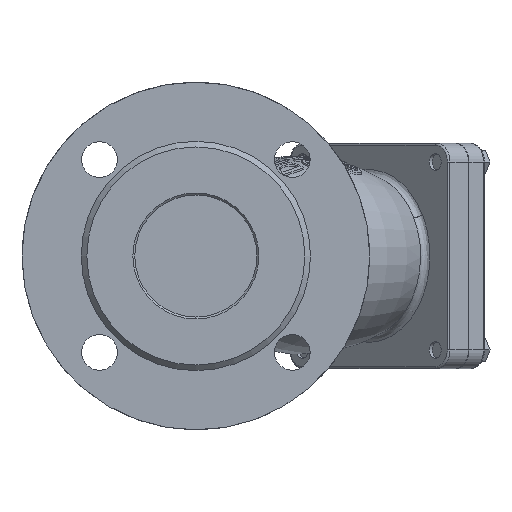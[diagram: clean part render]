
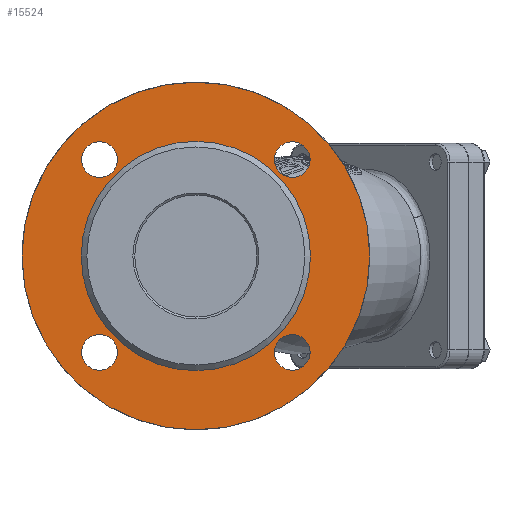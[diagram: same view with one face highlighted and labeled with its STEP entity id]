
A CAD part, left-side view. The second image highlights one B-rep face of the part: STEP entity #15524.
In plain terms, the highlighted planar face has unit normal (-1, 0, 0).
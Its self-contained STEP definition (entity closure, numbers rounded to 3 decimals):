
#260 = CIRCLE ( 'NONE', #34633, 92.5 ) ;
#951 = DIRECTION ( 'NONE',  ( 0., 0., 1. ) ) ;
#1603 = DIRECTION ( 'NONE',  ( 0., 0., -1. ) ) ;
#1750 = FACE_OUTER_BOUND ( 'NONE', #34541, .T. ) ;
#1903 = CIRCLE ( 'NONE', #29254, 9.5 ) ;
#3918 = FACE_BOUND ( 'NONE', #27622, .T. ) ;
#4476 = ORIENTED_EDGE ( 'NONE', *, *, #34736, .T. ) ;
#4592 = CARTESIAN_POINT ( 'NONE',  ( 3., 0., 0. ) ) ;
#5934 = EDGE_LOOP ( 'NONE', ( #4476 ) ) ;
#6364 = CARTESIAN_POINT ( 'NONE',  ( 3., -51.265, -60.765 ) ) ;
#6374 = ORIENTED_EDGE ( 'NONE', *, *, #36324, .T. ) ;
#6861 = ORIENTED_EDGE ( 'NONE', *, *, #10305, .T. ) ;
#7203 = CIRCLE ( 'NONE', #38283, 9.5 ) ;
#7939 = ORIENTED_EDGE ( 'NONE', *, *, #15249, .T. ) ;
#8187 = AXIS2_PLACEMENT_3D ( 'NONE', #33461, #11611, #9423 ) ;
#8200 = ORIENTED_EDGE ( 'NONE', *, *, #25168, .T. ) ;
#8283 = CIRCLE ( 'NONE', #28597, 9.5 ) ;
#9008 = CARTESIAN_POINT ( 'NONE',  ( 3., 0., 0. ) ) ;
#9423 = DIRECTION ( 'NONE',  ( 0., 0., -1. ) ) ;
#10160 = PLANE ( 'NONE',  #27373 ) ;
#10174 = CARTESIAN_POINT ( 'NONE',  ( 3., 51.265, 41.765 ) ) ;
#10305 = EDGE_CURVE ( 'NONE', #33625, #33625, #8283, .T. ) ;
#10754 = FACE_BOUND ( 'NONE', #29826, .T. ) ;
#11353 = CARTESIAN_POINT ( 'NONE',  ( 3., 51.265, -60.765 ) ) ;
#11611 = DIRECTION ( 'NONE',  ( 1., 0., 0. ) ) ;
#12741 = VERTEX_POINT ( 'NONE', #37548 ) ;
#13431 = DIRECTION ( 'NONE',  ( 0., 0., -1. ) ) ;
#13513 = FACE_BOUND ( 'NONE', #25509, .T. ) ;
#14490 = VERTEX_POINT ( 'NONE', #23457 ) ;
#15249 = EDGE_CURVE ( 'NONE', #28645, #28645, #1903, .T. ) ;
#15524 = ADVANCED_FACE ( 'NONE', ( #1750, #34968, #13513, #25258, #3918, #10754 ), #10160, .T. ) ;
#18542 = DIRECTION ( 'NONE',  ( 0., 0., -1. ) ) ;
#19280 = CIRCLE ( 'NONE', #37046, 61. ) ;
#23457 = CARTESIAN_POINT ( 'NONE',  ( 3., 0., -92.5 ) ) ;
#25168 = EDGE_CURVE ( 'NONE', #34205, #34205, #36111, .T. ) ;
#25176 = CARTESIAN_POINT ( 'NONE',  ( 3., 51.265, -51.265 ) ) ;
#25258 = FACE_BOUND ( 'NONE', #35232, .T. ) ;
#25509 = EDGE_LOOP ( 'NONE', ( #6374 ) ) ;
#25519 = DIRECTION ( 'NONE',  ( 0., 1., 0. ) ) ;
#27373 = AXIS2_PLACEMENT_3D ( 'NONE', #34594, #31430, #951 ) ;
#27622 = EDGE_LOOP ( 'NONE', ( #8200 ) ) ;
#28251 = CARTESIAN_POINT ( 'NONE',  ( 3., -51.265, 41.765 ) ) ;
#28505 = DIRECTION ( 'NONE',  ( 1., 0., 0. ) ) ;
#28597 = AXIS2_PLACEMENT_3D ( 'NONE', #36816, #33866, #18542 ) ;
#28645 = VERTEX_POINT ( 'NONE', #10174 ) ;
#29236 = VERTEX_POINT ( 'NONE', #11353 ) ;
#29254 = AXIS2_PLACEMENT_3D ( 'NONE', #37975, #31481, #1603 ) ;
#29826 = EDGE_LOOP ( 'NONE', ( #7939 ) ) ;
#31430 = DIRECTION ( 'NONE',  ( -1., 0., 0. ) ) ;
#31481 = DIRECTION ( 'NONE',  ( 1., 0., 0. ) ) ;
#33455 = DIRECTION ( 'NONE',  ( 1., 0., 0. ) ) ;
#33461 = CARTESIAN_POINT ( 'NONE',  ( 3., -51.265, 51.265 ) ) ;
#33625 = VERTEX_POINT ( 'NONE', #6364 ) ;
#33866 = DIRECTION ( 'NONE',  ( 1., 0., 0. ) ) ;
#34205 = VERTEX_POINT ( 'NONE', #28251 ) ;
#34541 = EDGE_LOOP ( 'NONE', ( #35546 ) ) ;
#34594 = CARTESIAN_POINT ( 'NONE',  ( 3., 0., 0. ) ) ;
#34633 = AXIS2_PLACEMENT_3D ( 'NONE', #9008, #33455, #36791 ) ;
#34736 = EDGE_CURVE ( 'NONE', #12741, #12741, #19280, .T. ) ;
#34897 = DIRECTION ( 'NONE',  ( 1., 0., 0. ) ) ;
#34968 = FACE_BOUND ( 'NONE', #5934, .T. ) ;
#35232 = EDGE_LOOP ( 'NONE', ( #6861 ) ) ;
#35546 = ORIENTED_EDGE ( 'NONE', *, *, #37872, .F. ) ;
#36111 = CIRCLE ( 'NONE', #8187, 9.5 ) ;
#36324 = EDGE_CURVE ( 'NONE', #29236, #29236, #7203, .T. ) ;
#36791 = DIRECTION ( 'NONE',  ( 0., 0., -1. ) ) ;
#36816 = CARTESIAN_POINT ( 'NONE',  ( 3., -51.265, -51.265 ) ) ;
#37046 = AXIS2_PLACEMENT_3D ( 'NONE', #4592, #28505, #25519 ) ;
#37548 = CARTESIAN_POINT ( 'NONE',  ( 3., 61., 0. ) ) ;
#37872 = EDGE_CURVE ( 'NONE', #14490, #14490, #260, .T. ) ;
#37975 = CARTESIAN_POINT ( 'NONE',  ( 3., 51.265, 51.265 ) ) ;
#38283 = AXIS2_PLACEMENT_3D ( 'NONE', #25176, #34897, #13431 ) ;
